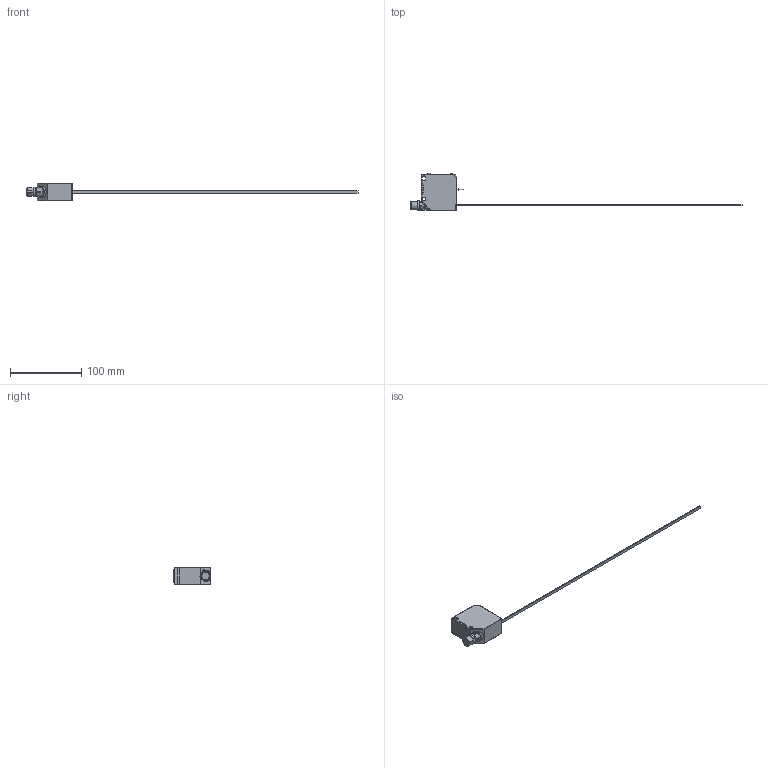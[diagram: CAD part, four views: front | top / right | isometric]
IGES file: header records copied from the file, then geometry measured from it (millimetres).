
Global section: file name: 624-41012_FT 55-RL2AM-320-PNSUIDL-L5M; native system: Autodesk Inventor 2023; preprocessor: unknown; author: Sandra.Stahl; date: 20231215.092929; units: millimetre
Bounding box: 464.52 x 52.11 x 25 mm (x, y, z)
Volume: 63160.1 mm3; surface area: 15965 mm2
Topology: 4 solids, 4 shells, 252 faces, 632 edges, 403 vertices
Faces by surface type: bspline 252
